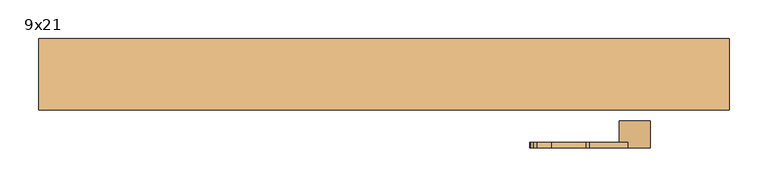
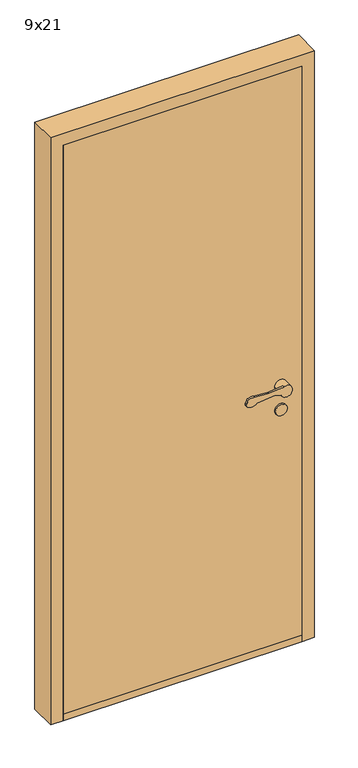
"""IFC4 building model written with IfcOpenShell, lengths in millimetres: door geometry, Innerdør Slett (Diplomat) : 9x21."""

from ifc_helpers import new_model, si_unit, point, frame, frame_2d, origin, origin_with_axes, place, context, project, spatial, polyline, circle_curve, trimmed, segment, composite_curve, outline, extrude, source, transform, mapped, element, save
from ifc_brep_helpers import plane_surface, cylinder_surface, revolved_surface, advanced_brep


def door_9x21_8fca96d3(model_context):
    return source(origin(), model_context, "Body", "SolidModel", [
        advanced_brep(
        [(343.9611305, 34.0, 949.1175955), (338.8520664, 34.0, 949.9496913), (276.0476109, 34.0, 943.6260011), (246.721536, 34.0, 938.7393398), (241.8691983, 34.0, 951.8913379), (245.505009, 34.0, 959.9624074), (250.3175669, 34.0, 964.8810513), (268.8963175, 34.0, 967.2639242), (313.6202158, 34.0, 964.1804415), (318.6891233, 34.0, 964.26032), (367.2687793, 34.0, 969.1517356), (396.379633, 34.0, 951.3474568), (358.3841161, 34.0, 942.6204086), (318.6891233, 26.8915284, 964.26032), (313.6202158, 26.8915284, 964.1804415), (268.8963175, 26.8915284, 967.2639242), (250.3175669, 26.8915284, 964.8810513), (245.505009, 26.8915284, 959.9624074), (241.8691983, 26.8915284, 951.8913379), (246.721536, 26.8915284, 938.7393398), (276.0476109, 26.8915284, 943.6260011), (338.8520664, 26.8915284, 949.9496913), (343.9611305, 26.8915284, 949.1175955), (358.3841161, 26.8915284, 942.6204086), (356.379633, 26.8915284, 951.3474568), (367.2687793, 26.8915284, 969.1517356), (396.379633, -1.0, 951.3474568), (356.379633, -1.0, 951.3474568)],
        [
            (0, 1, circle_curve(frame((339.8538865, 34.0, 940.0), z_axis=(0.0, -1.0, 0.0), x_axis=(-0.9949691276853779, 0.0, -0.10018200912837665)), 10.0)),
            (1, 2),
            (2, 3, circle_curve(frame((257.8569644, 34.0, 962.352734), z_axis=(0.0, 1.0, 0.0), x_axis=(-0.9949691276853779, 0.0, -0.10018200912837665)), 26.1072815)),
            (3, 4, circle_curve(frame((250.9867937, 34.0, 947.7840939), z_axis=(0.0, 1.0, 0.0), x_axis=(-0.9949691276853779, 0.0, -0.10018200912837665)), 10.0)),
            (4, 5),
            (5, 6, circle_curve(frame((254.6226045, 34.0, 955.8551634), z_axis=(0.0, 1.0, 0.0), x_axis=(-0.9949691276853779, 0.0, -0.10018200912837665)), 10.0)),
            (6, 7, circle_curve(frame((263.2326797, 34.0, 937.8033877), z_axis=(0.0, 1.0, 0.0), x_axis=(-0.9949691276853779, 0.0, -0.10018200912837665)), 30.0)),
            (7, 8),
            (8, 9, circle_curve(frame((315.683663, 34.0, 994.1093938), z_axis=(0.0, -1.0, 0.0), x_axis=(-0.9949691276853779, 0.0, -0.10018200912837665)), 30.0)),
            (9, 10),
            (10, 11, circle_curve(frame((376.379633, 34.0, 951.3474568), z_axis=(0.0, 1.0, 0.0), x_axis=(-1.0, 0.0, 0.0)), 20.0)),
            (11, 12, circle_curve(frame((376.379633, 34.0, 951.3474568), z_axis=(0.0, 1.0, 0.0), x_axis=(-1.0, 0.0, 0.0)), 20.0)),
            (12, 0),
            (13, 14, circle_curve(frame((315.683663, 26.8915284, 994.1093938), z_axis=(0.0, 1.0, 0.0), x_axis=(-0.9949691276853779, 0.0, -0.10018200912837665)), 30.0)),
            (14, 15),
            (15, 16, circle_curve(frame((263.2326797, 26.8915284, 937.8033877), z_axis=(0.0, -1.0, 0.0), x_axis=(-0.9949691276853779, 0.0, -0.10018200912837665)), 30.0)),
            (16, 17, circle_curve(frame((254.6226045, 26.8915284, 955.8551634), z_axis=(0.0, -1.0, 0.0), x_axis=(-0.9949691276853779, 0.0, -0.10018200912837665)), 10.0)),
            (17, 18),
            (18, 19, circle_curve(frame((250.9867937, 26.8915284, 947.7840939), z_axis=(0.0, -1.0, 0.0), x_axis=(-0.9949691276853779, 0.0, -0.10018200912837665)), 10.0)),
            (19, 20, circle_curve(frame((257.8569644, 26.8915284, 962.352734), z_axis=(0.0, -1.0, 0.0), x_axis=(-0.9949691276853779, 0.0, -0.10018200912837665)), 26.1072815)),
            (20, 21),
            (21, 22, circle_curve(frame((339.8538865, 26.8915284, 940.0), z_axis=(0.0, 1.0, 0.0), x_axis=(-0.9949691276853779, 0.0, -0.10018200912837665)), 10.0)),
            (22, 23),
            (23, 24, circle_curve(frame((376.379633, 26.8915284, 951.3474568), z_axis=(0.0, 1.0, 0.0), x_axis=(-1.0, 0.0, 0.0)), 20.0)),
            (24, 25, circle_curve(frame((376.379633, 26.8915284, 951.3474568), z_axis=(0.0, 1.0, 0.0), x_axis=(-1.0, 0.0, 0.0)), 20.0)),
            (25, 13),
            (9, 13),
            (25, 10),
            (22, 0),
            (12, 23),
            (21, 1),
            (20, 2),
            (19, 3),
            (18, 4),
            (17, 5),
            (16, 6),
            (15, 7),
            (14, 8),
            (26, 27, circle_curve(frame((376.379633, -1.0, 951.3474568), z_axis=(0.0, -1.0, 0.0), x_axis=(-1.0, 0.0, 0.0)), 20.0)),
            (27, 26, circle_curve(frame((376.379633, -1.0, 951.3474568), z_axis=(0.0, -1.0, 0.0), x_axis=(-1.0, 0.0, 0.0)), 20.0)),
            (27, 24),
            (11, 26),
        ],
        [
            plane_surface(frame((367.6960588, 34.0, 969.1947577), z_axis=(0.0, 1.0000000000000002, 0.0), x_axis=(0.9949691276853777, 0.0, 0.10018200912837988))),
            plane_surface(frame((367.6960588, 26.8915284, 969.1947577), z_axis=(0.0, -1.0000000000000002, 0.0), x_axis=(-0.9949691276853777, 0.0, -0.10018200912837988))),
            plane_surface(frame((318.6891233, 34.0, 964.26032), z_axis=(-0.10018200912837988, 0.0, 0.9949691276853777), x_axis=(0.0, -1.0, 0.0))),
            plane_surface(frame((376.9687366, 34.0, 934.2485115), z_axis=(-0.41072439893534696, 0.0, -0.91175954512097), x_axis=(0.0, -1.0, 0.0))),
            revolved_surface(polyline([(329.9041952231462, 26.8915284, 938.9981799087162), (329.9041952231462, 34.0, 938.9981799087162)]), (339.8538865, 26.8915284, 940.0), (0.0, -1.0, 0.0)),
            plane_surface(frame((338.8520664, 34.0, 949.9496913), z_axis=(0.10018200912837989, 0.0, -0.9949691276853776), x_axis=(0.0, -1.0, 0.0))),
            cylinder_surface(frame((257.8569644, 26.8915284, 962.352734), z_axis=(0.0, 1.0, 0.0), x_axis=(-0.9949691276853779, 0.0, -0.10018200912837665)), 26.1072815),
            cylinder_surface(frame((250.9867937, 26.8915284, 947.7840939), z_axis=(0.0, 1.0, 0.0), x_axis=(-0.9949691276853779, 0.0, -0.10018200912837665)), 10.0),
            plane_surface(frame((241.8691983, 34.0, 951.8913379), z_axis=(-0.9117595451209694, 0.0, 0.41072439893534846), x_axis=(0.0, -1.0, 0.0))),
            cylinder_surface(frame((254.6226045, 26.8915284, 955.8551634), z_axis=(0.0, 1.0, 0.0), x_axis=(-0.9949691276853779, 0.0, -0.10018200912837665)), 10.0),
            cylinder_surface(frame((263.2326797, 26.8915284, 937.8033877), z_axis=(0.0, 1.0, 0.0), x_axis=(-0.9949691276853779, 0.0, -0.10018200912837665)), 30.0),
            plane_surface(frame((268.8963175, 34.0, 967.2639242), z_axis=(0.06878157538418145, 0.0, 0.9976317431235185), x_axis=(0.0, -1.0, 0.0))),
            revolved_surface(polyline([(285.8345891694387, 26.8915284, 991.1039335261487), (285.8345891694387, 34.0, 991.1039335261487)]), (315.683663, 26.8915284, 994.1093938), (0.0, -1.0, 0.0)),
            plane_surface(frame((356.379633, -1.0, 951.3474568), z_axis=(0.0, -1.0, 0.0), x_axis=(0.0, 0.0, -1.0))),
            cylinder_surface(frame((376.379633, -1.0, 951.3474568), z_axis=(0.0, 1.0, 0.0), x_axis=(-1.0, 0.0, 0.0)), 20.0),
        ],
        [
            (0, [[1, 2, 3, 4, 5, 6, 7, 8, 9, 10, 11, 12, 13]]),
            (1, [[14, 15, 16, 17, 18, 19, 20, 21, 22, 23, 24, 25, 26]]),
            (2, [[27, -26, 28, -10]]),
            (3, [[29, -13, 30, -23]]),
            (4, [[-1, -29, -22, 31]]),
            (5, [[-2, -31, -21, 32]]),
            (6, [[-3, -32, -20, 33]]),
            (7, [[-4, -33, -19, 34]]),
            (8, [[-5, -34, -18, 35]]),
            (9, [[-6, -35, -17, 36]]),
            (10, [[-7, -36, -16, 37]]),
            (11, [[-8, -37, -15, 38]]),
            (12, [[-9, -38, -14, -27]]),
            (13, [[39, 40]]),
            (14, [[-40, 41, -24, -30, -12, 42]]),
            (14, [[-39, -42, -11, -28, -25, -41]]),
        ],
    ),
        extrude(outline(composite_curve([segment(trimmed(circle_curve(frame_2d((866.3474568, 376.379633)), 20.0), [point((866.3474568, 396.379633))], [point((866.3474568, 356.379633))], False, "CARTESIAN"), True, "CONTINUOUS"), segment(trimmed(circle_curve(frame_2d((866.3474568, 376.379633)), 20.0), [point((866.3474568, 356.379633))], [point((866.3474568, 396.379633))], False, "CARTESIAN"), True, "CONTINUOUS")], self_intersect=False)), frame((0.0, -1.0, 0.0), z_axis=(0.0, 1.0, 0.0), x_axis=(0.0, 0.0, 1.0)), (0.0, 0.0, 1.0), 5.0),
        advanced_brep(
        [(343.9611305, -100.0, 949.1175955), (358.3841161, -100.0, 942.6204086), (396.379633, -100.0, 951.3474568), (367.2687793, -100.0, 969.1517356), (318.6891233, -100.0, 964.26032), (313.6202158, -100.0, 964.1804415), (268.8963175, -100.0, 967.2639242), (250.3175669, -100.0, 964.8810513), (245.505009, -100.0, 959.9624074), (241.8691983, -100.0, 951.8913379), (246.721536, -100.0, 938.7393398), (276.0476109, -100.0, 943.6260011), (338.8520664, -100.0, 949.9496913), (318.6891233, -92.8915284, 964.26032), (367.2687793, -92.8915284, 969.1517356), (356.379633, -92.8915284, 951.3474568), (358.3841161, -92.8915284, 942.6204086), (343.9611305, -92.8915284, 949.1175955), (338.8520664, -92.8915284, 949.9496913), (276.0476109, -92.8915284, 943.6260011), (246.721536, -92.8915284, 938.7393398), (241.8691983, -92.8915284, 951.8913379), (245.505009, -92.8915284, 959.9624074), (250.3175669, -92.8915284, 964.8810513), (268.8963175, -92.8915284, 967.2639242), (313.6202158, -92.8915284, 964.1804415), (396.379633, -65.0, 951.3474568), (356.379633, -65.0, 951.3474568)],
        [
            (0, 1),
            (1, 2, circle_curve(frame((376.379633, -100.0, 951.3474568), z_axis=(0.0, -1.0, 0.0), x_axis=(-1.0, 0.0, 0.0)), 20.0)),
            (2, 3, circle_curve(frame((376.379633, -100.0, 951.3474568), z_axis=(0.0, -1.0, 0.0), x_axis=(-1.0, 0.0, 0.0)), 20.0)),
            (3, 4),
            (4, 5, circle_curve(frame((315.683663, -100.0, 994.1093938), z_axis=(0.0, 1.0, 0.0), x_axis=(-0.9949691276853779, 0.0, -0.10018200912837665)), 30.0)),
            (5, 6),
            (6, 7, circle_curve(frame((263.2326797, -100.0, 937.8033877), z_axis=(0.0, -1.0, 0.0), x_axis=(-0.9949691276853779, 0.0, -0.10018200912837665)), 30.0)),
            (7, 8, circle_curve(frame((254.6226045, -100.0, 955.8551634), z_axis=(0.0, -1.0, 0.0), x_axis=(-0.9949691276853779, 0.0, -0.10018200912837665)), 10.0)),
            (8, 9),
            (9, 10, circle_curve(frame((250.9867937, -100.0, 947.7840939), z_axis=(0.0, -1.0, 0.0), x_axis=(-0.9949691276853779, 0.0, -0.10018200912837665)), 10.0)),
            (10, 11, circle_curve(frame((257.8569644, -100.0, 962.352734), z_axis=(0.0, -1.0, 0.0), x_axis=(-0.9949691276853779, 0.0, -0.10018200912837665)), 26.1072815)),
            (11, 12),
            (12, 0, circle_curve(frame((339.8538865, -100.0, 940.0), z_axis=(0.0, 1.0, 0.0), x_axis=(-0.9949691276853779, 0.0, -0.10018200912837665)), 10.0)),
            (13, 14),
            (14, 15, circle_curve(frame((376.379633, -92.8915284, 951.3474568), z_axis=(0.0, -1.0, 0.0), x_axis=(-1.0, 0.0, 0.0)), 20.0)),
            (15, 16, circle_curve(frame((376.379633, -92.8915284, 951.3474568), z_axis=(0.0, -1.0, 0.0), x_axis=(-1.0, 0.0, 0.0)), 20.0)),
            (16, 17),
            (17, 18, circle_curve(frame((339.8538865, -92.8915284, 940.0), z_axis=(0.0, -1.0, 0.0), x_axis=(-0.9949691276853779, 0.0, -0.10018200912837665)), 10.0)),
            (18, 19),
            (19, 20, circle_curve(frame((257.8569644, -92.8915284, 962.352734), z_axis=(0.0, 1.0, 0.0), x_axis=(-0.9949691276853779, 0.0, -0.10018200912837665)), 26.1072815)),
            (20, 21, circle_curve(frame((250.9867937, -92.8915284, 947.7840939), z_axis=(0.0, 1.0, 0.0), x_axis=(-0.9949691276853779, 0.0, -0.10018200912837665)), 10.0)),
            (21, 22),
            (22, 23, circle_curve(frame((254.6226045, -92.8915284, 955.8551634), z_axis=(0.0, 1.0, 0.0), x_axis=(-0.9949691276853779, 0.0, -0.10018200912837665)), 10.0)),
            (23, 24, circle_curve(frame((263.2326797, -92.8915284, 937.8033877), z_axis=(0.0, 1.0, 0.0), x_axis=(-0.9949691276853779, 0.0, -0.10018200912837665)), 30.0)),
            (24, 25),
            (25, 13, circle_curve(frame((315.683663, -92.8915284, 994.1093938), z_axis=(0.0, -1.0, 0.0), x_axis=(-0.9949691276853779, 0.0, -0.10018200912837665)), 30.0)),
            (3, 14),
            (13, 4),
            (16, 1),
            (0, 17),
            (12, 18),
            (11, 19),
            (10, 20),
            (9, 21),
            (8, 22),
            (7, 23),
            (6, 24),
            (5, 25),
            (26, 27, circle_curve(frame((376.379633, -65.0, 951.3474568), z_axis=(0.0, 1.0, 0.0), x_axis=(-1.0, 0.0, 0.0)), 20.0)),
            (27, 26, circle_curve(frame((376.379633, -65.0, 951.3474568), z_axis=(0.0, 1.0, 0.0), x_axis=(-1.0, 0.0, 0.0)), 20.0)),
            (26, 2),
            (15, 27),
        ],
        [
            plane_surface(frame((367.6960588, -100.0, 969.1947577), z_axis=(0.0, -1.0000000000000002, 0.0), x_axis=(0.9949691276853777, 0.0, 0.10018200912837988))),
            plane_surface(frame((367.6960588, -92.8915284, 969.1947577), z_axis=(0.0, 1.0000000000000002, 0.0), x_axis=(-0.9949691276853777, 0.0, -0.10018200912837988))),
            plane_surface(frame((318.6891233, -100.0, 964.26032), z_axis=(-0.10018200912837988, 0.0, 0.9949691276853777), x_axis=(0.0, 1.0, 0.0))),
            plane_surface(frame((376.9687366, -100.0, 934.2485115), z_axis=(-0.41072439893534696, 0.0, -0.91175954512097), x_axis=(0.0, 1.0, 0.0))),
            revolved_surface(polyline([(329.9041952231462, -92.8915284, 938.9981799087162), (329.9041952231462, -100.0, 938.9981799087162)]), (339.8538865, -92.8915284, 940.0), (0.0, 1.0, 0.0)),
            plane_surface(frame((338.8520664, -100.0, 949.9496913), z_axis=(0.10018200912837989, 0.0, -0.9949691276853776), x_axis=(0.0, 1.0, 0.0))),
            cylinder_surface(frame((257.8569644, -92.8915284, 962.352734), z_axis=(0.0, -1.0, 0.0), x_axis=(-0.9949691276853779, 0.0, -0.10018200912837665)), 26.1072815),
            cylinder_surface(frame((250.9867937, -92.8915284, 947.7840939), z_axis=(0.0, -1.0, 0.0), x_axis=(-0.9949691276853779, 0.0, -0.10018200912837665)), 10.0),
            plane_surface(frame((241.8691983, -100.0, 951.8913379), z_axis=(-0.9117595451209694, 0.0, 0.41072439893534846), x_axis=(0.0, 1.0, 0.0))),
            cylinder_surface(frame((254.6226045, -92.8915284, 955.8551634), z_axis=(0.0, -1.0, 0.0), x_axis=(-0.9949691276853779, 0.0, -0.10018200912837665)), 10.0),
            cylinder_surface(frame((263.2326797, -92.8915284, 937.8033877), z_axis=(0.0, -1.0, 0.0), x_axis=(-0.9949691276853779, 0.0, -0.10018200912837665)), 30.0),
            plane_surface(frame((268.8963175, -100.0, 967.2639242), z_axis=(0.06878157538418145, 0.0, 0.9976317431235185), x_axis=(0.0, 1.0, 0.0))),
            revolved_surface(polyline([(285.8345891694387, -92.8915284, 991.1039335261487), (285.8345891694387, -100.0, 991.1039335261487)]), (315.683663, -92.8915284, 994.1093938), (0.0, 1.0, 0.0)),
            plane_surface(frame((356.379633, -65.0, 951.3474568), z_axis=(0.0, 1.0, 0.0), x_axis=(0.0, 0.0, -1.0))),
            cylinder_surface(frame((376.379633, -65.0, 951.3474568), z_axis=(0.0, -1.0, 0.0), x_axis=(-1.0, 0.0, 0.0)), 20.0),
        ],
        [
            (0, [[1, 2, 3, 4, 5, 6, 7, 8, 9, 10, 11, 12, 13]]),
            (1, [[14, 15, 16, 17, 18, 19, 20, 21, 22, 23, 24, 25, 26]]),
            (2, [[-4, 27, -14, 28]]),
            (3, [[-17, 29, -1, 30]]),
            (4, [[31, -18, -30, -13]]),
            (5, [[32, -19, -31, -12]]),
            (6, [[33, -20, -32, -11]]),
            (7, [[34, -21, -33, -10]]),
            (8, [[35, -22, -34, -9]]),
            (9, [[36, -23, -35, -8]]),
            (10, [[37, -24, -36, -7]]),
            (11, [[38, -25, -37, -6]]),
            (12, [[-28, -26, -38, -5]]),
            (13, [[39, 40]]),
            (14, [[41, -2, -29, -16, 42, -39]]),
            (14, [[-42, -15, -27, -3, -41, -40]]),
        ],
    ),
        extrude(outline(composite_curve([segment(trimmed(circle_curve(frame_2d((866.3474568, 376.379633)), 20.0), [point((866.3474568, 396.379633))], [point((866.3474568, 356.379633))], False, "CARTESIAN"), True, "CONTINUOUS"), segment(trimmed(circle_curve(frame_2d((866.3474568, 376.379633)), 20.0), [point((866.3474568, 356.379633))], [point((866.3474568, 396.379633))], False, "CARTESIAN"), True, "CONTINUOUS")], self_intersect=False)), frame((0.0, -70.0, 0.0), z_axis=(0.0, 1.0, 0.0), x_axis=(0.0, 0.0, 1.0)), (0.0, 0.0, 1.0), 5.0),
        extrude(outline(polyline([(456.379633, 41.0), (456.379633, -51.0), (-349.620367, -51.0), (-349.620367, 41.0), (456.379633, 41.0)])), origin_with_axes(), (0.0, 0.0, 1.0), 22.0),
        extrude(outline(polyline([(456.379633, -1.0), (456.379633, -51.0), (-349.620367, -51.0), (-349.620367, -1.0), (456.379633, -1.0)])), frame((0.0, 0.0, 22.0), z_axis=(0.0, 0.0, 1.0), x_axis=(1.0, 0.0, 0.0)), (0.0, 0.0, 1.0), 2031.0),
        extrude(outline(polyline([(0.0, -349.620367), (2053.0, -349.620367), (2053.0, 456.379633), (0.0, 456.379633), (0.0, 498.379633), (2095.0, 498.379633), (2095.0, -391.620367), (0.0, -391.620367), (0.0, -349.620367)])), frame((0.0, -51.0, 0.0), z_axis=(0.0, 1.0, 0.0), x_axis=(0.0, 0.0, 1.0)), (0.0, 0.0, 1.0), 92.0),
    ])


if __name__ == "__main__":
    model = new_model("IFC4")
    model_context = context("Model", 3, world=origin())
    ifc_project = project(units=[si_unit("LENGTHUNIT", "METRE", prefix="MILLI")], contexts=[model_context])
    site = spatial("IfcSite", under=ifc_project)
    building = spatial("IfcBuilding", under=site)
    placement = place(None, origin())
    door_9x21_shape = door_9x21_8fca96d3(model_context)
    element("IfcDoor", 1, ObjectType="Innerdør Slett (Diplomat) : 9x21", at=placement, inside=building, context=model_context, shape_type="MappedRepresentation", body=[
        mapped(door_9x21_shape, transform((0.0, 0.0, 0.0), x_axis=(1.0, 0.0, 0.0), y_axis=(0.0, 1.0, 0.0), z_axis=(0.0, 0.0, 1.0))),
    ])
    save(model, "model.ifc")
